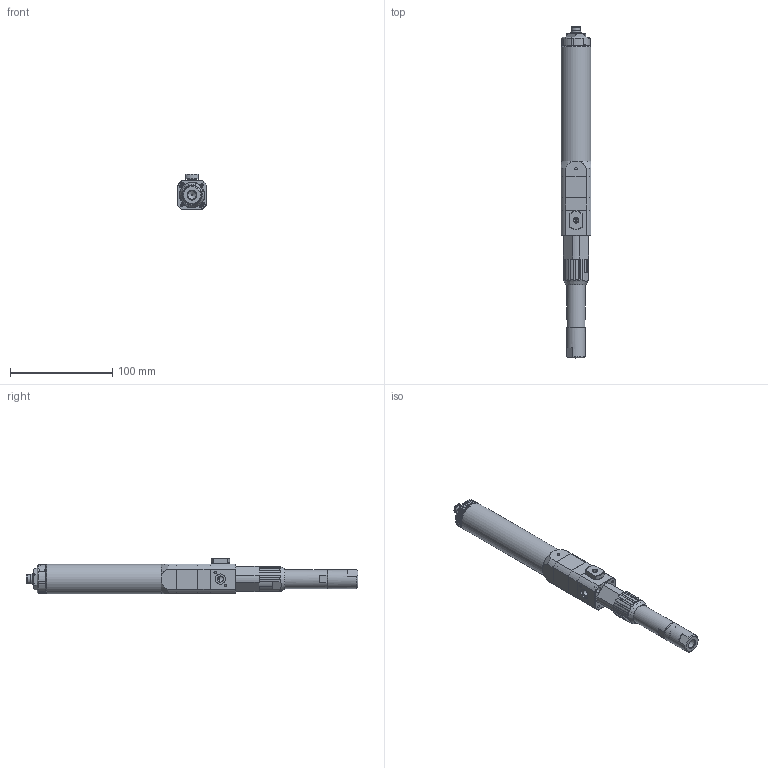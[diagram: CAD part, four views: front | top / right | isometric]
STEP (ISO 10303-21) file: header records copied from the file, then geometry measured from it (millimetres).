
FILE_DESCRIPTION (( 'STEP AP214' ), '1' );
FILE_NAME ('PCPM-1500A-14.STEP', '2024-10-11T11:38:05', ( '' ), ( '' ), 'SwSTEP 2.0', 'SolidWorks 2024', '' );
FILE_SCHEMA (( 'AUTOMOTIVE_DESIGN' ));
Length unit declared in the file: millimetre
Products named in the file (1): PCPM-1500A-14
Bounding box: 29 x 324.5 x 35 mm (x, y, z)
Volume: 88688.8 mm3; surface area: 82537.9 mm2
Topology: 28 solids, 28 shells, 1541 faces, 3984 edges, 2590 vertices
Faces by surface type: plane 915, cylinder 337, cone 182, bspline 60, sphere 32, torus 15
Full cylindrical faces by diameter (mm): 0.6 x1, 0.8 x4, 1 x5, 1.5 x2, 2 x1, 2.5 x14, 3 x2, 3.5 x15, 4 x1, 4.2 x1, 4.8 x1, 5 x1, 5.2 x1, 5.8 x7, 6 x8, 6.6 x3, 6.8 x1, 8 x2, 8.178 x1, 8.5 x1, 9 x4, 9.6 x2, 10 x4, 10.008 x2, 10.8 x2, 11 x1, 11.2 x1, 12 x1, 12.05 x4, 12.158 x4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
Entity records: 47910 total; most frequent: CARTESIAN_POINT 14517, ORIENTED_EDGE 6820, DIRECTION 6494, EDGE_CURVE 3410, AXIS2_PLACEMENT_3D 2593, VERTEX_POINT 2399, EDGE_LOOP 2109, FACE_OUTER_BOUND 1758
